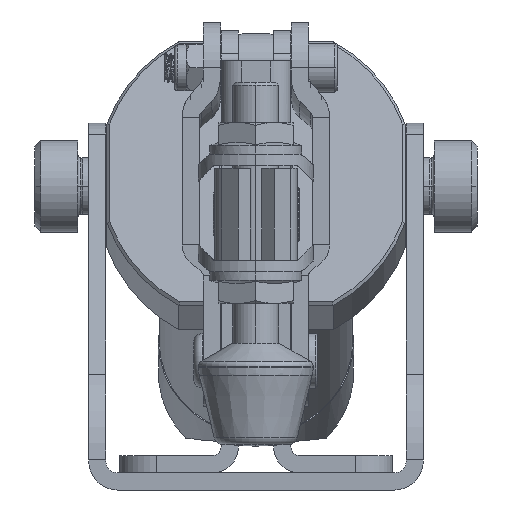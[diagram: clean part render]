
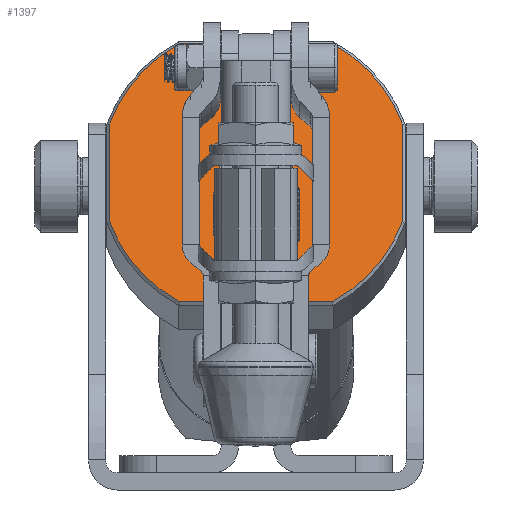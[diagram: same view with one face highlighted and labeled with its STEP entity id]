
A CAD part, left-side view. The second image highlights one B-rep face of the part: STEP entity #1397.
In plain terms, the highlighted planar face has unit normal (-0.956, 0, 0.293).
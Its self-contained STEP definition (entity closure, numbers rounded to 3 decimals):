
#1397=ADVANCED_FACE('',(#3987,#3988),#3989,.T.);
#3987=FACE_BOUND('',#8135,.T.);
#3988=FACE_OUTER_BOUND('',#8136,.T.);
#3989=PLANE('',#8137);
#8135=EDGE_LOOP('',(#14520,#14521));
#8136=EDGE_LOOP('',(#14522,#14523,#14524,#14525,#14526,#14527,#14528,#14529));
#8137=AXIS2_PLACEMENT_3D('',#14530,#14531,#14532);
#14520=ORIENTED_EDGE('',*,*,#26082,.F.);
#14521=ORIENTED_EDGE('',*,*,#26204,.F.);
#14522=ORIENTED_EDGE('',*,*,#26205,.F.);
#14523=ORIENTED_EDGE('',*,*,#26206,.F.);
#14524=ORIENTED_EDGE('',*,*,#26207,.F.);
#14525=ORIENTED_EDGE('',*,*,#26208,.F.);
#14526=ORIENTED_EDGE('',*,*,#26209,.F.);
#14527=ORIENTED_EDGE('',*,*,#26210,.F.);
#14528=ORIENTED_EDGE('',*,*,#26211,.F.);
#14529=ORIENTED_EDGE('',*,*,#26212,.F.);
#14530=CARTESIAN_POINT('',(46.695,0.,55.25));
#14531=DIRECTION('',(-0.956,0.0,0.293));
#14532=DIRECTION('',(0.0,1.0,0.0));
#26082=EDGE_CURVE('',#32516,#32519,#32520,.T.);
#26204=EDGE_CURVE('',#32519,#32516,#32702,.T.);
#26205=EDGE_CURVE('',#32703,#32704,#32705,.T.);
#26206=EDGE_CURVE('',#32706,#32703,#32707,.T.);
#26207=EDGE_CURVE('',#32708,#32706,#32709,.T.);
#26208=EDGE_CURVE('',#32710,#32708,#32711,.T.);
#26209=EDGE_CURVE('',#32712,#32710,#32713,.T.);
#26210=EDGE_CURVE('',#32714,#32712,#32715,.T.);
#26211=EDGE_CURVE('',#32716,#32714,#32717,.T.);
#26212=EDGE_CURVE('',#32704,#32716,#32718,.T.);
#32516=VERTEX_POINT('',#39559);
#32519=VERTEX_POINT('',#39563);
#32520=CIRCLE('',#39564,6.5);
#32702=CIRCLE('',#39830,6.5);
#32703=VERTEX_POINT('',#39831);
#32704=VERTEX_POINT('',#39832);
#32705=LINE('',#39833,#39834);
#32706=VERTEX_POINT('',#39835);
#32707=CIRCLE('',#39836,27.0);
#32708=VERTEX_POINT('',#39837);
#32709=LINE('',#39838,#39839);
#32710=VERTEX_POINT('',#39840);
#32711=CIRCLE('',#39841,27.0);
#32712=VERTEX_POINT('',#39842);
#32713=LINE('',#39843,#39844);
#32714=VERTEX_POINT('',#39845);
#32715=CIRCLE('',#39846,27.0);
#32716=VERTEX_POINT('',#39847);
#32717=LINE('',#39848,#39849);
#32718=CIRCLE('',#39850,27.0);
#39559=CARTESIAN_POINT('',(44.789,0.,49.036));
#39563=CARTESIAN_POINT('',(48.601,0.,61.464));
#39564=AXIS2_PLACEMENT_3D('',#101054,#101055,#101056);
#39830=AXIS2_PLACEMENT_3D('',#101225,#101226,#101227);
#39831=CARTESIAN_POINT('',(39.803,-13.295,32.783));
#39832=CARTESIAN_POINT('',(39.803,13.295,32.783));
#39833=CARTESIAN_POINT('',(39.803,13.426,32.783));
#39834=VECTOR('',#101228,1.0);
#39835=CARTESIAN_POINT('',(44.092,-25.5,46.766));
#39836=AXIS2_PLACEMENT_3D('',#101229,#101230,#101231);
#39837=CARTESIAN_POINT('',(49.297,-25.5,63.734));
#39838=CARTESIAN_POINT('',(46.695,-25.5,55.25));
#39839=VECTOR('',#101232,1.0);
#39840=CARTESIAN_POINT('',(53.586,-13.295,77.717));
#39841=AXIS2_PLACEMENT_3D('',#101233,#101234,#101235);
#39842=CARTESIAN_POINT('',(53.586,13.295,77.717));
#39843=CARTESIAN_POINT('',(53.586,0.,77.717));
#39844=VECTOR('',#101236,1.0);
#39845=CARTESIAN_POINT('',(49.297,25.5,63.734));
#39846=AXIS2_PLACEMENT_3D('',#101237,#101238,#101239);
#39847=CARTESIAN_POINT('',(44.092,25.5,46.766));
#39848=CARTESIAN_POINT('',(49.322,25.5,63.814));
#39849=VECTOR('',#101240,1.0);
#39850=AXIS2_PLACEMENT_3D('',#101241,#101242,#101243);
#101054=CARTESIAN_POINT('',(46.695,0.,55.25));
#101055=DIRECTION('',(-0.956,0.0,0.293));
#101056=DIRECTION('',(-0.293,0.0,-0.956));
#101225=CARTESIAN_POINT('',(46.695,0.,55.25));
#101226=DIRECTION('',(-0.956,0.0,0.293));
#101227=DIRECTION('',(-0.293,0.0,-0.956));
#101228=DIRECTION('',(0.0,1.0,0.0));
#101229=CARTESIAN_POINT('',(46.695,0.,55.25));
#101230=DIRECTION('',(0.956,0.0,-0.293));
#101231=DIRECTION('',(-0.293,0.0,-0.956));
#101232=DIRECTION('',(-0.293,0.0,-0.956));
#101233=CARTESIAN_POINT('',(46.695,0.,55.25));
#101234=DIRECTION('',(0.956,0.0,-0.293));
#101235=DIRECTION('',(-0.293,0.0,-0.956));
#101236=DIRECTION('',(0.0,-1.0,0.0));
#101237=CARTESIAN_POINT('',(46.695,0.,55.25));
#101238=DIRECTION('',(0.956,0.0,-0.293));
#101239=DIRECTION('',(-0.293,0.0,-0.956));
#101240=DIRECTION('',(0.293,0.0,0.956));
#101241=CARTESIAN_POINT('',(46.695,0.,55.25));
#101242=DIRECTION('',(0.956,0.0,-0.293));
#101243=DIRECTION('',(-0.293,0.0,-0.956));
